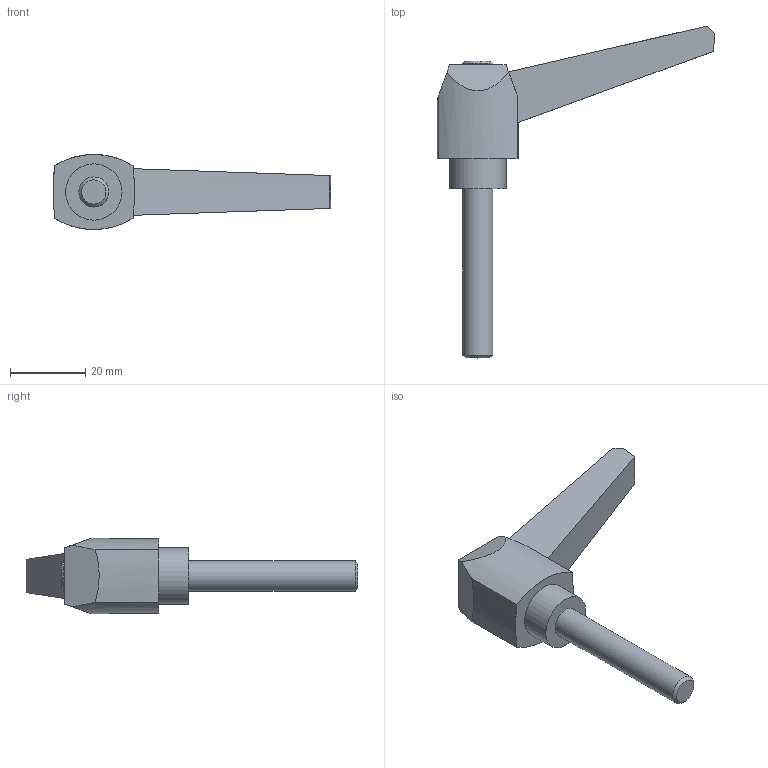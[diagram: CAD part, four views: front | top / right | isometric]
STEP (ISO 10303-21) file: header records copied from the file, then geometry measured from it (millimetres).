
FILE_DESCRIPTION( ( 'STEP AP203' ), '1' );
FILE_NAME( 'C:/Temp/Ganter_Step_05_03_2020/data/2_1/gn_500/gn_500_ms/Adjustable hand lever GN 500-63-M8-45-SW.stp', '2020-03-05T11:26:35', ( 'License CC BY-ND 4.0' ), ( 'CADENAS' ), ' ', 'PARTsolutions', ' ' );
FILE_SCHEMA( ( 'CONFIG_CONTROL_DESIGN' ) );
Length unit declared in the file: millimetre
Products named in the file (1): _Adjustable hand lever GN 500-63-M8-45-SW
Bounding box: 73.9 x 88.35 x 19.99 mm (x, y, z)
Volume: 18749.3 mm3; surface area: 6094.5 mm2
Topology: 1 solids, 1 shells, 24 faces, 56 edges, 37 vertices
Faces by surface type: plane 11, cylinder 7, cone 6
Full cylindrical faces by diameter (mm): 8 x2, 15 x1
Entity records: 708 total; most frequent: DIRECTION 122, CARTESIAN_POINT 117, ORIENTED_EDGE 100, EDGE_CURVE 50, AXIS2_PLACEMENT_3D 49, VERTEX_POINT 36, EDGE_LOOP 32, FACE_OUTER_BOUND 27
